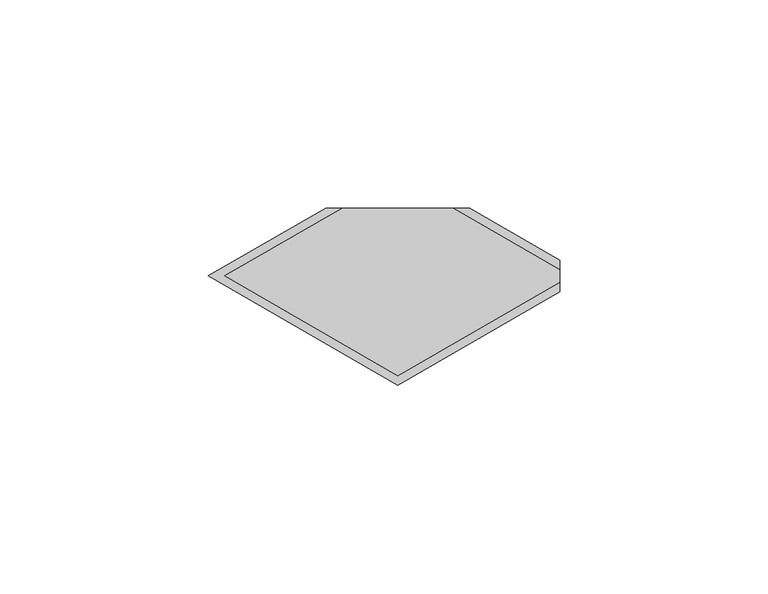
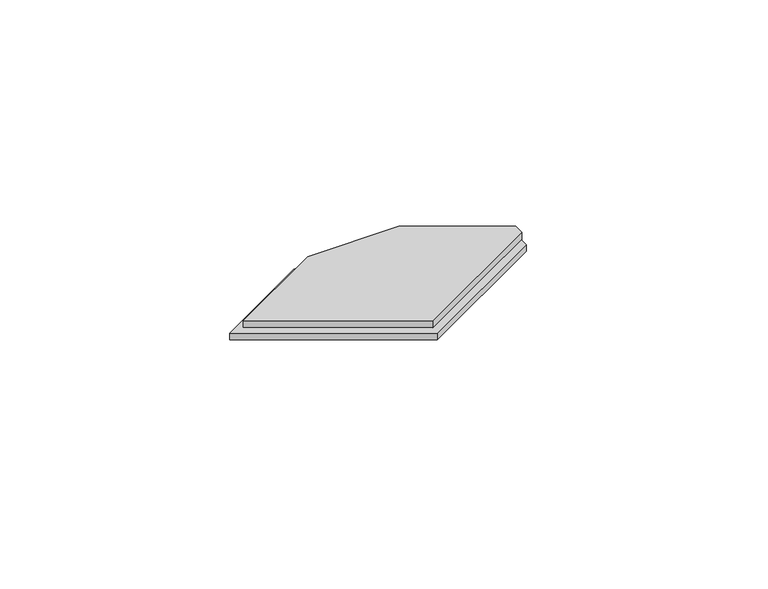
"""IFC4 building model written with IfcOpenShell, lengths in millimetres: proxy geometry, PBSHOP - CUBICA ARGENTO 4,8X8,3 : CUBICA ARGENTO - POSIÇÃO 03."""

from ifc_helpers import new_model, si_unit, frame, origin, origin_with_axes, place, context, project, spatial, polyline, outline, extrude, source, transform, mapped, element, save


def generic_models_39246dda(model_context):
    return source(origin(), model_context, "Body", "SweptSolid", [
        extrude(outline(polyline([(0.0, -26.3094011), (-45.5692194, 0.0), (-17.3205081, 16.3094011), (17.3205081, 16.3094011), (38.9692194, 3.8105118), (38.9692194, -3.8105118), (0.0, -26.3094011)])), origin_with_axes(), (0.0, 0.0, 1.0), 2.0),
        extrude(outline(polyline([(0.0, -24.0), (-41.5692194, 0.0), (-13.3205081, 16.3094011), (13.3205081, 16.3094011), (38.9692194, 1.5011107), (38.9692194, -1.5011107), (0.0, -24.0)])), frame((0.0, 0.0, 2.0), z_axis=(0.0, 0.0, 1.0), x_axis=(1.0, 0.0, 0.0)), (0.0, 0.0, 1.0), 2.5),
    ])


if __name__ == "__main__":
    model = new_model("IFC4")
    model_context = context("Model", 3, world=origin())
    ifc_project = project(units=[si_unit("LENGTHUNIT", "METRE", prefix="MILLI")], contexts=[model_context])
    site = spatial("IfcSite", under=ifc_project)
    building = spatial("IfcBuilding", under=site)
    placement = place(None, origin())
    generic_models_shape = generic_models_39246dda(model_context)
    element("IfcBuildingElementProxy", 1, Name="PBSHOP - CUBICA ARGENTO 4,8X8,3 : CUBICA ARGENTO - POSIÇÃO 03", ObjectType="PBSHOP - CUBICA ARGENTO 4,8X8,3 : CUBICA ARGENTO - POSIÇÃO 03", at=placement, inside=building, context=model_context, shape_type="MappedRepresentation", body=[
        mapped(generic_models_shape, transform((0.0, 0.0, 0.0), x_axis=(1.0, 0.0, 0.0), y_axis=(0.0, 1.0, 0.0), z_axis=(0.0, 0.0, 1.0))),
    ])
    save(model, "model.ifc")
